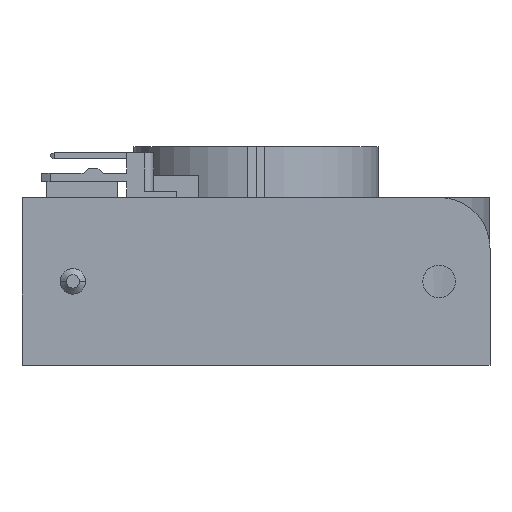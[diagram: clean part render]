
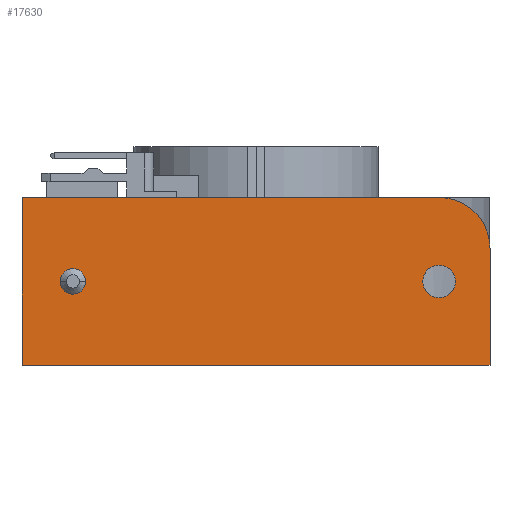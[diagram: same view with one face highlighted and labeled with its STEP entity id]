
A CAD part, front view. The second image highlights one B-rep face of the part: STEP entity #17630.
In plain terms, the highlighted planar face has unit normal (0, -1, 0).
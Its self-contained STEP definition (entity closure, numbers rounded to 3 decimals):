
#9800=CARTESIAN_POINT('',(18.,-38.,11.5));
#9810=DIRECTION('',(0.,1.,0.));
#9820=DIRECTION('',(-1.,0.,0.));
#9830=AXIS2_PLACEMENT_3D('',#9800,#9810,#9820);
#9840=CIRCLE('',#9830,5.);
#9850=CARTESIAN_POINT('',(18.,-38.,16.5));
#9860=VERTEX_POINT('',#9850);
#9870=CARTESIAN_POINT('',(23.,-38.,11.5));
#9880=VERTEX_POINT('',#9870);
#9890=EDGE_CURVE('',#9860,#9880,#9840,.T.);
#16510=CARTESIAN_POINT('',(-23.,-38.,16.5));
#16520=VERTEX_POINT('',#16510);
#16550=CARTESIAN_POINT('',(-23.,-38.,0.));
#16560=DIRECTION('',(0.,0.,-1.));
#16570=VECTOR('',#16560,1.);
#16580=LINE('',#16550,#16570);
#16590=CARTESIAN_POINT('',(-23.,-38.,0.));
#16600=VERTEX_POINT('',#16590);
#16610=EDGE_CURVE('',#16520,#16600,#16580,.T.);
#16960=CARTESIAN_POINT('',(-23.,-38.,0.));
#16970=DIRECTION('',(-0.,1.,0.));
#16980=DIRECTION('',(1.,0.,0.));
#16990=AXIS2_PLACEMENT_3D('',#16960,#16970,#16980);
#17000=PLANE('',#16990);
#17010=CARTESIAN_POINT('',(0.,-38.,0.));
#17020=DIRECTION('',(1.,0.,0.));
#17030=VECTOR('',#17020,1.);
#17040=LINE('',#17010,#17030);
#17050=CARTESIAN_POINT('',(23.,-38.,0.));
#17060=VERTEX_POINT('',#17050);
#17070=EDGE_CURVE('',#16600,#17060,#17040,.T.);
#17080=ORIENTED_EDGE('',*,*,#17070,.T.);
#17090=ORIENTED_EDGE('',*,*,#16610,.T.);
#17100=CARTESIAN_POINT('',(0.,-38.,16.5));
#17110=DIRECTION('',(1.,0.,0.));
#17120=VECTOR('',#17110,1.);
#17130=LINE('',#17100,#17120);
#17140=EDGE_CURVE('',#16520,#9860,#17130,.T.);
#17150=ORIENTED_EDGE('',*,*,#17140,.F.);
#17160=ORIENTED_EDGE('',*,*,#9890,.F.);
#17170=CARTESIAN_POINT('',(23.,-38.,0.));
#17180=DIRECTION('',(0.,0.,-1.));
#17190=VECTOR('',#17180,1.);
#17200=LINE('',#17170,#17190);
#17210=EDGE_CURVE('',#9880,#17060,#17200,.T.);
#17220=ORIENTED_EDGE('',*,*,#17210,.F.);
#17230=EDGE_LOOP('',(#17220,#17160,#17150,#17090,#17080));
#17240=FACE_OUTER_BOUND('',#17230,.T.);
#17250=CARTESIAN_POINT('',(18.,-38.,8.25));
#17260=DIRECTION('',(0.,1.,0.));
#17270=DIRECTION('',(1.,0.,0.));
#17280=AXIS2_PLACEMENT_3D('',#17250,#17260,#17270);
#17290=CIRCLE('',#17280,1.6);
#17300=CARTESIAN_POINT('',(19.6,-38.,8.25));
#17310=VERTEX_POINT('',#17300);
#17320=CARTESIAN_POINT('',(16.4,-38.,8.25));
#17330=VERTEX_POINT('',#17320);
#17340=EDGE_CURVE('',#17310,#17330,#17290,.T.);
#17350=ORIENTED_EDGE('',*,*,#17340,.T.);
#17360=CARTESIAN_POINT('',(18.,-38.,9.85));
#17370=VERTEX_POINT('',#17360);
#17380=EDGE_CURVE('',#17370,#17310,#17290,.T.);
#17390=ORIENTED_EDGE('',*,*,#17380,.T.);
#17400=EDGE_CURVE('',#17330,#17370,#17290,.T.);
#17410=ORIENTED_EDGE('',*,*,#17400,.T.);
#17420=EDGE_LOOP('',(#17410,#17390,#17350));
#17430=FACE_BOUND('',#17420,.T.);
#17440=CARTESIAN_POINT('',(-18.,-38.,8.25));
#17450=DIRECTION('',(0.,-1.,0.));
#17460=DIRECTION('',(1.,0.,0.));
#17470=AXIS2_PLACEMENT_3D('',#17440,#17450,#17460);
#17480=CIRCLE('',#17470,1.25);
#17490=CARTESIAN_POINT('',(-18.,-38.,7.));
#17500=VERTEX_POINT('',#17490);
#17510=CARTESIAN_POINT('',(-16.75,-38.,8.25));
#17520=VERTEX_POINT('',#17510);
#17530=EDGE_CURVE('',#17500,#17520,#17480,.T.);
#17540=ORIENTED_EDGE('',*,*,#17530,.F.);
#17550=CARTESIAN_POINT('',(-19.25,-38.,8.25));
#17560=VERTEX_POINT('',#17550);
#17570=EDGE_CURVE('',#17520,#17560,#17480,.T.);
#17580=ORIENTED_EDGE('',*,*,#17570,.F.);
#17590=EDGE_CURVE('',#17560,#17500,#17480,.T.);
#17600=ORIENTED_EDGE('',*,*,#17590,.F.);
#17610=EDGE_LOOP('',(#17600,#17580,#17540));
#17620=FACE_BOUND('',#17610,.T.);
#17630=ADVANCED_FACE('',(#17240,#17430,#17620),#17000,.F.);
